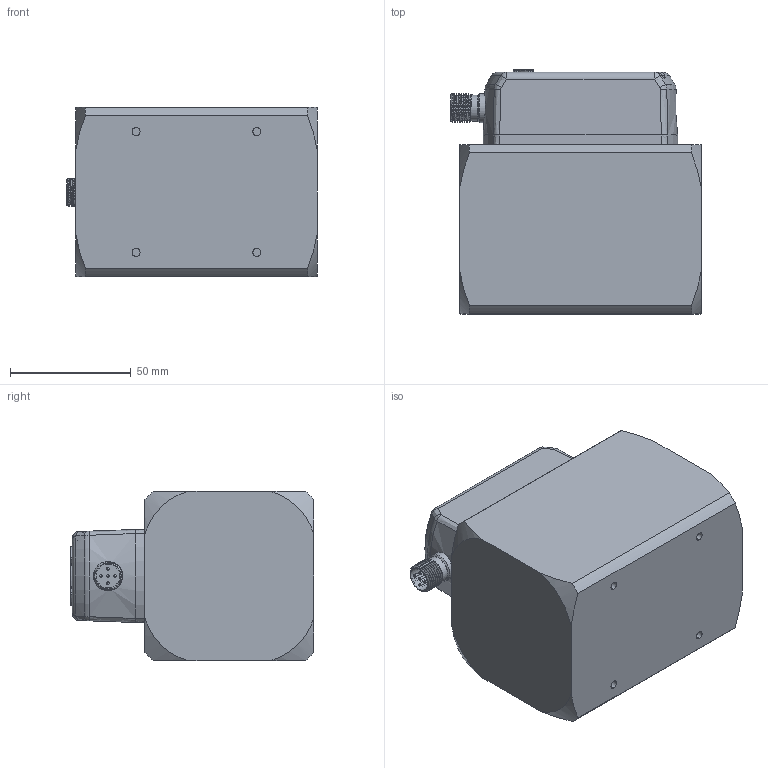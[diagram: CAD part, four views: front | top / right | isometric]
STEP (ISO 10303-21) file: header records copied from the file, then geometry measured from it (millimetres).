
FILE_DESCRIPTION( (''), '2;1');
FILE_NAME( 'QEKH_DN40_female-thread_standard.step', '2025-04-28T16:07:22+08:00', (''), (''), '', '', '');
FILE_SCHEMA (('AUTOMOTIVE_DESIGN { 1 0 10303 214 3 1 1 1 }'));
Length unit declared in the file: millimetre
Products named in the file (1): QEKH DN40_female-thread_standard
Bounding box: 103.71 x 100.9 x 70 mm (x, y, z)
Volume: 586605.9 mm3; surface area: 70680.6 mm2
Topology: 9 solids, 12 shells, 1092 faces, 2882 edges, 1884 vertices
Faces by surface type: plane 537, extrusion 239, cylinder 181, cone 50, bspline 44, torus 32, sphere 9
Full cylindrical faces by diameter (mm): 1 x10, 2.6 x4, 2.7 x5, 3.1 x1, 3.5 x7, 4.5 x4, 9.8 x2, 10.8 x1, 11.992 x2, 12 x4
Entity records: 37756 total; most frequent: CARTESIAN_POINT 11855, ORIENTED_EDGE 5580, DIRECTION 4457, EDGE_CURVE 2790, VECTOR 1875, VERTEX_POINT 1852, LINE 1636, AXIS2_PLACEMENT_3D 1291
